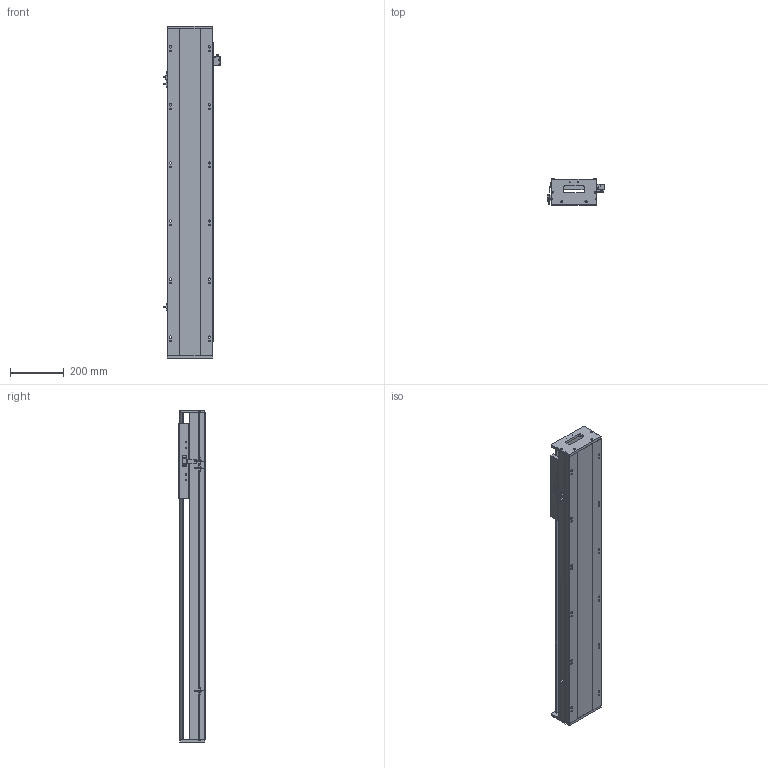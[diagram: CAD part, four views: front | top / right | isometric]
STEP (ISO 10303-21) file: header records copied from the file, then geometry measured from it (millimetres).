
FILE_DESCRIPTION (( 'STEP AP203' ), '1' );
FILE_NAME ('SKR17S-C2-S856（简）.STEP', '2022-09-29T07:52:11', ( '' ), ( '' ), 'SwSTEP 2.0', 'SolidWorks 2018', '' );
FILE_SCHEMA (( 'CONFIG_CONTROL_DESIGN' ));
Length unit declared in the file: millimetre
Products named in the file (8): SIKO棠掑; 棠掑假蚾輸; 感应片（SKR12S-14S-17S）; SKR17S-C2-S856（简）; SKR17耜啣; SKR17滑台-280L（简）; EE-SX672; SKR17底座-C2-S856（简)
Assembly tree (10 placements, depth 2):
  SKR17S-C2-S856（简）
    SKR17底座-C2-S856（简)
    SIKO棠掑
    EE-SX672  x3
    SKR17耜啣  x2
    棠掑假蚾輸
    SKR17滑台-280L（简）
    感应片（SKR12S-14S-17S）
Bounding box: 212.7 x 97 x 1236 mm (x, y, z)
Volume: 10137924.3 mm3; surface area: 1287531.5 mm2
Topology: 11 solids, 11 shells, 1096 faces, 3033 edges, 1947 vertices
Faces by surface type: cylinder 511, plane 467, cone 118
Entity records: 32547 total; most frequent: CARTESIAN_POINT 8031, ORIENTED_EDGE 5078, DIRECTION 4801, EDGE_CURVE 2539, AXIS2_PLACEMENT_3D 1701, VERTEX_POINT 1651, LINE 1399, VECTOR 1399
